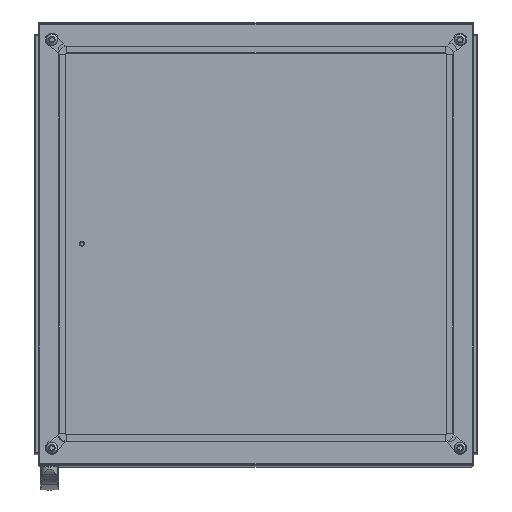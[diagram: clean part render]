
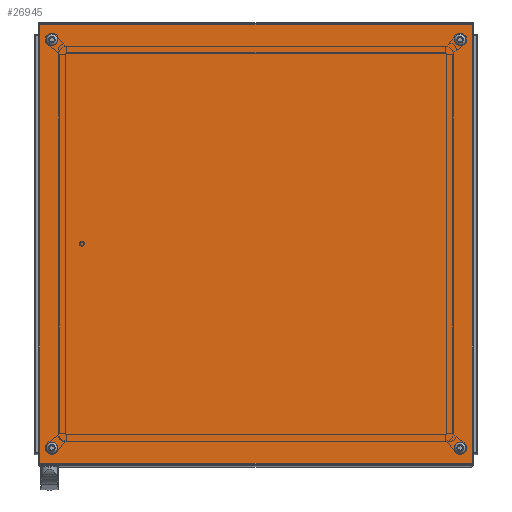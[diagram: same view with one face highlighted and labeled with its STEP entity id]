
A CAD part, top view. The second image highlights one B-rep face of the part: STEP entity #26945.
In plain terms, the highlighted planar face has unit normal (0, 0, 1).
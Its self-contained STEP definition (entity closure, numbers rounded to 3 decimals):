
#1343=CIRCLE('',#28944,6.);
#1344=CIRCLE('',#28945,6.);
#1345=CIRCLE('',#28946,6.);
#1346=CIRCLE('',#28947,6.);
#5099=ORIENTED_EDGE('',*,*,#11493,.F.);
#5100=ORIENTED_EDGE('',*,*,#11494,.F.);
#5101=ORIENTED_EDGE('',*,*,#11495,.F.);
#5102=ORIENTED_EDGE('',*,*,#11496,.F.);
#5103=ORIENTED_EDGE('',*,*,#11482,.T.);
#5104=ORIENTED_EDGE('',*,*,#11490,.T.);
#5105=ORIENTED_EDGE('',*,*,#11453,.F.);
#5106=ORIENTED_EDGE('',*,*,#11497,.F.);
#11453=EDGE_CURVE('',#14885,#14886,#17573,.T.);
#11482=EDGE_CURVE('',#14907,#14906,#17579,.T.);
#11490=EDGE_CURVE('',#14906,#14886,#17584,.T.);
#11493=EDGE_CURVE('',#14908,#14908,#1343,.T.);
#11494=EDGE_CURVE('',#14909,#14909,#1344,.T.);
#11495=EDGE_CURVE('',#14910,#14910,#1345,.T.);
#11496=EDGE_CURVE('',#14911,#14911,#1346,.T.);
#11497=EDGE_CURVE('',#14907,#14885,#17587,.T.);
#14885=VERTEX_POINT('',#42081);
#14886=VERTEX_POINT('',#42083);
#14906=VERTEX_POINT('',#42157);
#14907=VERTEX_POINT('',#42159);
#14908=VERTEX_POINT('',#42176);
#14909=VERTEX_POINT('',#42178);
#14910=VERTEX_POINT('',#42180);
#14911=VERTEX_POINT('',#42182);
#17573=LINE('',#42082,#19918);
#17579=LINE('',#42158,#19924);
#17584=LINE('',#42170,#19929);
#17587=LINE('',#42183,#19932);
#19918=VECTOR('',#33728,1000.);
#19924=VECTOR('',#33782,1000.);
#19929=VECTOR('',#33799,1000.);
#19932=VECTOR('',#33814,1000.);
#21961=EDGE_LOOP('',(#5099));
#21962=EDGE_LOOP('',(#5100));
#21963=EDGE_LOOP('',(#5101));
#21964=EDGE_LOOP('',(#5102));
#21965=EDGE_LOOP('',(#5103,#5104,#5105,#5106));
#24168=FACE_BOUND('',#21961,.T.);
#24169=FACE_BOUND('',#21962,.T.);
#24170=FACE_BOUND('',#21963,.T.);
#24171=FACE_BOUND('',#21964,.T.);
#24172=FACE_BOUND('',#21965,.T.);
#26032=PLANE('',#28943);
#26945=ADVANCED_FACE('',(#24168,#24169,#24170,#24171,#24172),#26032,.T.);
#28943=AXIS2_PLACEMENT_3D('',#42174,#33804,#33805);
#28944=AXIS2_PLACEMENT_3D('',#42175,#33806,#33807);
#28945=AXIS2_PLACEMENT_3D('',#42177,#33808,#33809);
#28946=AXIS2_PLACEMENT_3D('',#42179,#33810,#33811);
#28947=AXIS2_PLACEMENT_3D('',#42181,#33812,#33813);
#33728=DIRECTION('',(-1.,0.,0.));
#33782=DIRECTION('',(-1.,0.,0.));
#33799=DIRECTION('',(0.,-1.,0.));
#33804=DIRECTION('',(0.,0.,1.));
#33805=DIRECTION('',(1.,0.,0.));
#33806=DIRECTION('',(0.,0.,1.));
#33807=DIRECTION('',(1.,0.,0.));
#33808=DIRECTION('',(0.,0.,1.));
#33809=DIRECTION('',(1.,0.,0.));
#33810=DIRECTION('',(0.,0.,1.));
#33811=DIRECTION('',(1.,0.,0.));
#33812=DIRECTION('',(0.,0.,1.));
#33813=DIRECTION('',(1.,0.,0.));
#33814=DIRECTION('',(0.,-1.,0.));
#42081=CARTESIAN_POINT('',(396.5,-402.5,20.));
#42082=CARTESIAN_POINT('',(400.,-402.5,20.));
#42083=CARTESIAN_POINT('',(-396.5,-402.5,20.));
#42157=CARTESIAN_POINT('',(-396.5,402.5,20.));
#42158=CARTESIAN_POINT('',(400.,402.5,20.));
#42159=CARTESIAN_POINT('',(396.5,402.5,20.));
#42170=CARTESIAN_POINT('',(-396.5,405.5,20.));
#42174=CARTESIAN_POINT('',(-396.5,-402.5,20.));
#42175=CARTESIAN_POINT('',(374.5,-374.5,20.));
#42176=CARTESIAN_POINT('',(380.5,-374.5,20.));
#42177=CARTESIAN_POINT('',(-374.5,374.5,20.));
#42178=CARTESIAN_POINT('',(-368.5,374.5,20.));
#42179=CARTESIAN_POINT('',(374.5,374.5,20.));
#42180=CARTESIAN_POINT('',(380.5,374.5,20.));
#42181=CARTESIAN_POINT('',(-374.5,-374.5,20.));
#42182=CARTESIAN_POINT('',(-368.5,-374.5,20.));
#42183=CARTESIAN_POINT('',(396.5,405.5,20.));
